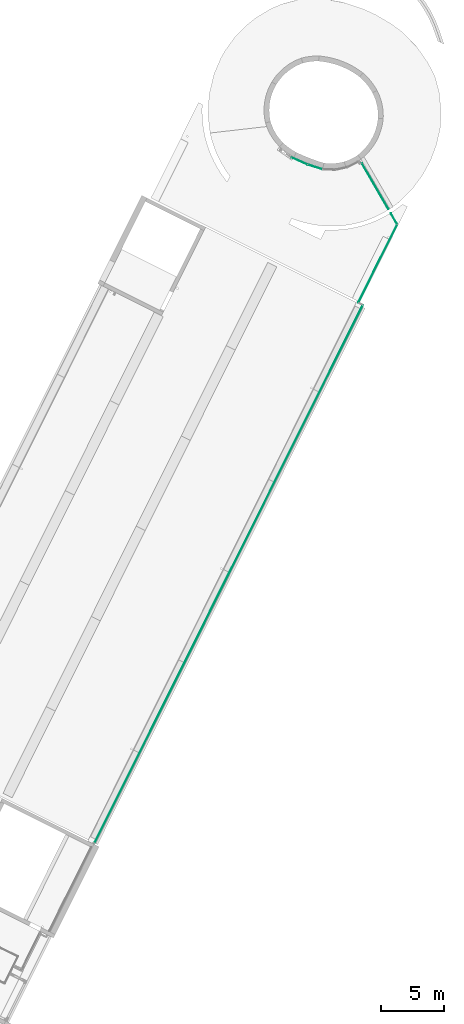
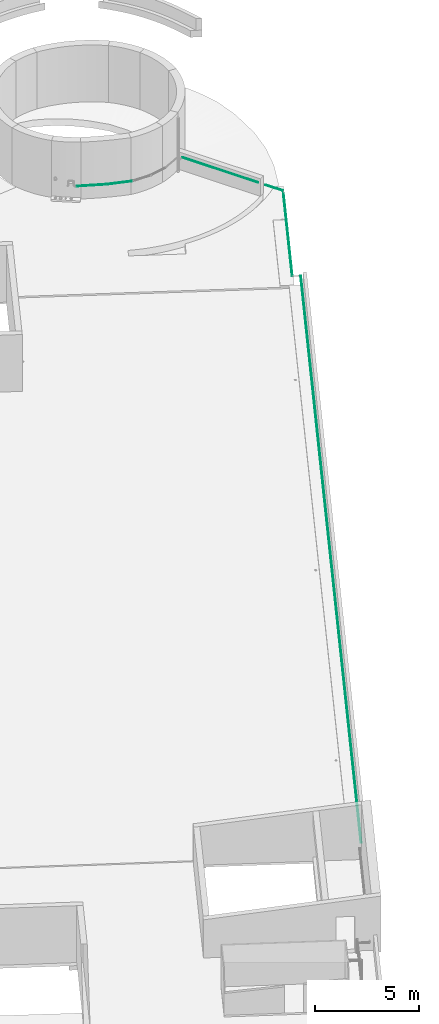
# One storey, part 14 of 34: 6 flow segments.
"""IFC2X3 building model written with IfcOpenShell, lengths in metres."""

import ifcopenshell
import ifcopenshell.guid

model = None  # the IFC model being written
_history = None  # IfcOwnerHistory: only IFC2X3 demands one
_inside = {}  # id of a spatial element -> (the spatial element, [elements in it])
_under = {}  # id of a project, library or spatial element -> (it, [spatial elements below it])
_declared = {}  # id of a project -> (the project, [libraries it declares])
_typed = {}  # id of a type object -> (the type object, [elements of that type])
_made_of = {}  # id of a material, layer set ... -> (it, [elements and type objects made of it])


def new_model(schema):
    """Start an empty IFC model of exactly this schema.

    Asked for "IFC4X3", IfcOpenShell would pick the latest addendum, in which some entities
    have other attributes; the version numbers below select the first issue.
    IFC2X3 requires an IfcOwnerHistory on every rooted entity: one is made here for all.
    """
    global model, _history
    if schema == "IFC4X3":
        model = ifcopenshell.file(schema_version=(4, 3, 0, 0))
    else:
        model = ifcopenshell.file(schema=schema)
    _inside.clear()
    _under.clear()
    _declared.clear()
    _typed.clear()
    _made_of.clear()
    _history = None
    if model.schema == "IFC2X3":
        org = make("IfcOrganization", Name="unknown")
        user = make(
            "IfcPersonAndOrganization",
            ThePerson=make("IfcPerson", FamilyName="unknown"),
            TheOrganization=org,
        )
        app = make(
            "IfcApplication",
            ApplicationDeveloper=org,
            Version="unknown",
            ApplicationFullName="unknown",
            ApplicationIdentifier="unknown",
        )
        _history = make(
            "IfcOwnerHistory",
            OwningUser=user,
            OwningApplication=app,
            ChangeAction="ADDED",
            CreationDate=0,
        )
    return model


def make(cls, **values):
    """One entity of the class cls with the attributes given. An attribute that is None is left unset."""
    return model.create_entity(
        cls, **{name: value for name, value in values.items() if value is not None}
    )


def entity(cls, *values):
    """Any entity or typed value of the class cls, its attributes in the order of the schema. None: left unset."""
    e = model.create_entity(cls)
    for i, value in enumerate(values):
        if value is not None:
            e[i] = value
    return e


def rooted(cls, **values):
    """An entity with a GlobalId (a new one), such as an element, a storey or a relation."""
    return make(cls, GlobalId=ifcopenshell.guid.new(), OwnerHistory=_history, **values)


def si_unit(unit_type, name, prefix=None):
    """IfcSIUnit, for example si_unit("LENGTHUNIT", "METRE", prefix="MILLI")."""
    return make("IfcSIUnit", UnitType=unit_type, Prefix=prefix, Name=name)


def converted_unit(unit_type, name, factor, base, dimensions=None, offset=None):
    """IfcConversionBasedUnit, such as the inch: factor (a typed value) times the base unit."""
    return make(
        "IfcConversionBasedUnit"
        if offset is None
        else "IfcConversionBasedUnitWithOffset",
        ConversionOffset=offset,
        Dimensions=None
        if dimensions is None
        else entity("IfcDimensionalExponents", *dimensions),
        UnitType=unit_type,
        Name=name,
        ConversionFactor=make(
            "IfcMeasureWithUnit", ValueComponent=factor, UnitComponent=base
        ),
    )


def derived_unit(unit_type, elements):
    """IfcDerivedUnit: a product of units, each with its exponent."""
    return make(
        "IfcDerivedUnit",
        Elements=[
            make("IfcDerivedUnitElement", Unit=unit, Exponent=power)
            for unit, power in elements
        ],
        UnitType=unit_type,
    )


def assignment(units):
    """IfcUnitAssignment: the units of a project."""
    return None if units is None else make("IfcUnitAssignment", Units=units)


def point(xyz):
    """IfcCartesianPoint."""
    return None if xyz is None else make("IfcCartesianPoint", Coordinates=xyz)


def direction(xyz):
    """IfcDirection."""
    return None if xyz is None else make("IfcDirection", DirectionRatios=xyz)


def frame(location, z_axis=None, x_axis=None):
    """IfcAxis2Placement3D, a coordinate frame: its origin and axes. An axis left out is left unset."""
    return make(
        "IfcAxis2Placement3D",
        Location=point(location),
        Axis=direction(z_axis),
        RefDirection=direction(x_axis),
    )


def frame_2d(location, x_axis=None):
    """IfcAxis2Placement2D, a coordinate frame in the plane: its origin and x axis."""
    return make(
        "IfcAxis2Placement2D", Location=point(location), RefDirection=direction(x_axis)
    )


def origin():
    """The frame at (0, 0, 0) with its axes left unset."""
    return frame((0.0, 0.0, 0.0))


def origin_2d_with_axis():
    """The frame at (0, 0) in the plane with the x axis (1, 0) written out."""
    return frame_2d((0.0, 0.0), x_axis=(1.0, 0.0))


def place(relative_to, where):
    """IfcLocalPlacement: puts the frame where relative to a parent placement (None: the world)."""
    return make(
        "IfcLocalPlacement", PlacementRelTo=relative_to, RelativePlacement=where
    )


def context(
    kind, dimensions, precision=None, world=None, true_north=None, identifier=None
):
    """IfcGeometricRepresentationContext, for example the 3D "Model" context."""
    return make(
        "IfcGeometricRepresentationContext",
        ContextIdentifier=identifier,
        ContextType=kind,
        CoordinateSpaceDimension=dimensions,
        Precision=precision,
        WorldCoordinateSystem=world,
        TrueNorth=true_north,
    )


def subcontext(parent, identifier, kind, view, scale=None):
    """IfcGeometricRepresentationSubContext, for example "Body" below "Model"."""
    return make(
        "IfcGeometricRepresentationSubContext",
        ContextIdentifier=identifier,
        ContextType=kind,
        ParentContext=parent,
        TargetScale=scale,
        TargetView=view,
    )


def project(units=None, contexts=None):
    """IfcProject with its units and contexts."""
    return rooted(
        "IfcProject",
        Name="project",
        RepresentationContexts=contexts,
        UnitsInContext=assignment(units),
    )


def spatial(cls, under=None, at=None, **own):
    """A site, building, storey or space (cls), placed at a placement, below another one or the project."""
    s = rooted(cls, ObjectPlacement=at, **own)
    if under is not None:
        _under.setdefault(under.id(), (under, []))[1].append(s)
    return s


def profile(cls, at=None, kind="AREA", **sizes):
    """A parametric profile (cls). Its sizes go by their IFC names, for example OverallWidth=200.0."""
    return make(cls, ProfileType=kind, Position=at, **sizes)


def circle(**sizes):
    """IfcCircleProfileDef."""
    return profile("IfcCircleProfileDef", **sizes)


def extrude(swept, where, along, depth):
    """IfcExtrudedAreaSolid: the profile swept, set in the frame where, extruded along a direction by depth."""
    return make(
        "IfcExtrudedAreaSolid",
        SweptArea=swept,
        Position=where,
        ExtrudedDirection=direction(along),
        Depth=depth,
    )


def shape(context_of_items, identifier, shape_type, items):
    """IfcShapeRepresentation: the items that make up one representation, for example the "Body"."""
    return make(
        "IfcShapeRepresentation",
        ContextOfItems=context_of_items,
        RepresentationIdentifier=identifier,
        RepresentationType=shape_type,
        Items=items,
    )


def made_of(thing, what):
    """Note that an element or type object is made of a material, layer set ...; save() writes the relation."""
    if what is not None:
        _made_of.setdefault(what.id(), (what, []))[1].append(thing)
    return thing


def type_object(cls, material=None, **own):
    """A type object (cls), such as IfcWallType, which elements share."""
    return made_of(rooted(cls, **own), material)


def element(
    cls,
    number,
    at=None,
    inside=None,
    cuts=None,
    type_object=None,
    material=None,
    context=None,
    identifier="Body",
    shape_type=None,
    held_by="IfcProductDefinitionShape",
    body=None,
    shapes=None,
    **own,
):
    """One element of the class cls, such as IfcWall. Its Tag is "e" and its number.

    at: its placement. inside: the storey or other place that contains it. cuts: it is an
    opening in that element (IfcRelVoidsElement). A single representation is given by context,
    identifier, shape_type and body (its items); several are given by shapes. held_by: the class
    of the entity that holds the representations. save() writes the other relations.
    """
    e = rooted(cls, Tag="e%d" % number, ObjectPlacement=at, **own)
    if body is not None:
        shapes = [shape(context, identifier, shape_type, body)]
    if shapes is not None:
        e.Representation = make(held_by, Representations=shapes)
    if inside is not None:
        _inside.setdefault(inside.id(), (inside, []))[1].append(e)
    if cuts is not None:
        rooted(
            "IfcRelVoidsElement", RelatingBuildingElement=cuts, RelatedOpeningElement=e
        )
    if type_object is not None:
        _typed.setdefault(type_object.id(), (type_object, []))[1].append(e)
    return made_of(e, material)


def aggregate(whole, parts):
    """IfcRelAggregates: a whole, such as a stair, and the parts it consists of."""
    return rooted("IfcRelAggregates", RelatingObject=whole, RelatedObjects=parts)


def save(model, path):
    """Write the relations noted so far, then the file.

    IfcRelAggregates (storeys below a building ...), IfcRelContainedInSpatialStructure (elements
    in a storey), IfcRelDefinesByType, IfcRelAssociatesMaterial and IfcRelDeclares: one each for
    every whole, place, type object, material and project.
    """
    for whole, parts in _under.values():
        aggregate(whole, parts)
    for where, things in _inside.values():
        rooted(
            "IfcRelContainedInSpatialStructure",
            RelatedElements=things,
            RelatingStructure=where,
        )
    for kind, things in _typed.values():
        rooted("IfcRelDefinesByType", RelatedObjects=things, RelatingType=kind)
    for what, things in _made_of.values():
        rooted("IfcRelAssociatesMaterial", RelatedObjects=things, RelatingMaterial=what)
    for by, libraries in _declared.values():
        rooted("IfcRelDeclares", RelatingContext=by, RelatedDefinitions=libraries)
    model.write(path)


model = new_model("IFC2X3")

# Units and contexts
model_context = context("Model", 3, precision=1e-05, world=origin(), true_north=direction((0.894925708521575, 0.446215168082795)))
context_of_model = context(None, 3, precision=1e-05, world=origin(), true_north=direction((0.894925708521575, 0.446215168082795)))
body_context = subcontext(model_context, "Body", "Model", "MODEL_VIEW")
ifc_project = project(units=[si_unit("LENGTHUNIT", "METRE"), si_unit("AREAUNIT", "SQUARE_METRE"), si_unit("VOLUMEUNIT", "CUBIC_METRE"), converted_unit("PLANEANGLEUNIT", "DEGREE", entity("IfcRatioMeasure", 0.0174532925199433), si_unit("PLANEANGLEUNIT", "RADIAN"), dimensions=[0, 0, 0, 0, 0, 0, 0]), si_unit("MASSUNIT", "GRAM", prefix="KILO"), si_unit("TIMEUNIT", "SECOND"), si_unit("FREQUENCYUNIT", "HERTZ"), si_unit("THERMODYNAMICTEMPERATUREUNIT", "DEGREE_CELSIUS"), derived_unit("THERMALTRANSMITTANCEUNIT", [(si_unit("MASSUNIT", "GRAM", prefix="KILO"), 1), (si_unit("THERMODYNAMICTEMPERATUREUNIT", "KELVIN"), -1), (si_unit("TIMEUNIT", "SECOND"), -3)]), derived_unit("VOLUMETRICFLOWRATEUNIT", [(si_unit("LENGTHUNIT", "METRE"), 3), (si_unit("TIMEUNIT", "SECOND"), -1)]), si_unit("ELECTRICCURRENTUNIT", "AMPERE"), si_unit("ELECTRICVOLTAGEUNIT", "VOLT"), si_unit("POWERUNIT", "WATT"), si_unit("FORCEUNIT", "NEWTON", prefix="KILO"), si_unit("ILLUMINANCEUNIT", "LUX"), si_unit("LUMINOUSFLUXUNIT", "LUMEN"), si_unit("LUMINOUSINTENSITYUNIT", "CANDELA"), si_unit("PRESSUREUNIT", "PASCAL")], contexts=[model_context, context_of_model])

# Site, building, storey
site_placement = place(None, frame((218.228324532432, 584.720189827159, 0.0), z_axis=(0.0, 0.0, 1.0), x_axis=(0.446215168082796, 0.894925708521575, 0.0)))
site = spatial("IfcSite", under=ifc_project, at=site_placement, Name="Default", CompositionType="ELEMENT")
building_placement = place(site_placement, origin())
building = spatial("IfcBuilding", under=site, at=building_placement, CompositionType="ELEMENT")
storey_placement = place(building_placement, frame((0.0, 0.0, 8.61)))
storey = spatial("IfcBuildingStorey", under=building, at=storey_placement, Name="2 - Piano Secondo", CompositionType="ELEMENT", Elevation=8.61)

# Flow segments
pipe_segment_type = type_object("IfcPipeSegmentType", Name="Tubazione:Antincendio-Tubazione", PredefinedType="NOTDEFINED")
flow_segment_1_placement = place(storey_placement, frame((66.8673068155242, -5.46545385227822, 0.827322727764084)))
element("IfcFlowSegment", 1, at=flow_segment_1_placement, inside=storey, type_object=pipe_segment_type, Name="Tubazione:Antincendio-Tubazione", ObjectType="Tubazione:Antincendio-Tubazione", context=body_context, shape_type="SweptSolid", body=[
    extrude(circle(Radius=0.021082, at=origin_2d_with_axis()), frame((0.212642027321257, 0.00489322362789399, 0.0226772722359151), z_axis=(-0.156434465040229, 0.987688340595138, 0.0), x_axis=(0.987688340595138, 0.156434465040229, 0.0)), (0.0, 0.0, 1.0), 1.21599999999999),
])
flow_segment_2_placement = place(storey_placement, frame((66.795714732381, -4.19853801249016, 0.827322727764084)))
element("IfcFlowSegment", 2, at=flow_segment_2_placement, inside=storey, type_object=pipe_segment_type, Name="Tubazione:Antincendio-Tubazione", ObjectType="Tubazione:Antincendio-Tubazione", context=body_context, shape_type="SweptSolid", body=[
    extrude(circle(Radius=0.021082, at=origin_2d_with_axis()), frame((0.0875127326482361, 0.00257767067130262, 0.0226772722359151), z_axis=(-0.0465989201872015, 0.998913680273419, 0.0), x_axis=(0.998913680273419, 0.0465989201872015, 0.0)), (0.0, 0.0, 1.0), 1.39184259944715),
])
flow_segment_3_placement = place(storey_placement, frame((11.2262149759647, -13.1337562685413, 0.677322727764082)))
element("IfcFlowSegment", 3, at=flow_segment_3_placement, inside=storey, type_object=pipe_segment_type, Name="Tubazione:Antincendio-Tubazione", ObjectType="Tubazione:Antincendio-Tubazione", context=body_context, shape_type="SweptSolid", body=[
    extrude(circle(Radius=0.021082, at=origin_2d_with_axis()), frame((0.0, 0.0226772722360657, 0.0226772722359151), z_axis=(1.0, 0.0, 0.0), x_axis=(0.0, -1.0, 0.0)), (0.0, 0.0, 1.0), 47.6077220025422),
])
flow_segment_4_placement = place(storey_placement, frame((58.8979369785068, -12.7237562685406, 0.677322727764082)))
element("IfcFlowSegment", 4, at=flow_segment_4_placement, inside=storey, type_object=pipe_segment_type, Name="Tubazione:Antincendio-Tubazione", ObjectType="Tubazione:Antincendio-Tubazione", context=body_context, shape_type="SweptSolid", body=[
    extrude(circle(Radius=0.021082, at=origin_2d_with_axis()), frame((0.0, 0.02267727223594, 0.0226772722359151), z_axis=(1.0, 0.0, 0.0), x_axis=(0.0, -1.0, 0.0)), (0.0, 0.0, 1.0), 6.88683735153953),
])
flow_segment_5_placement = place(storey_placement, frame((65.8152099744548, -12.687578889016, 0.827322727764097)))
element("IfcFlowSegment", 5, at=flow_segment_5_placement, inside=storey, type_object=pipe_segment_type, Name="Tubazione:Antincendio-Tubazione", ObjectType="Tubazione:Antincendio-Tubazione", context=body_context, shape_type="SweptSolid", body=[
    extrude(circle(Radius=0.021082, at=origin_2d_with_axis()), frame((0.0191907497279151, 0.0132077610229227, 0.0226772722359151), z_axis=(0.550824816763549, 0.83462088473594, 0.0), x_axis=(0.83462088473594, -0.550824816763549, 0.0)), (0.0, 0.0, 1.0), 0.968000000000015),
])
flow_segment_6_placement = place(storey_placement, frame((66.5734698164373, -11.5386482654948, 0.827322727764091)))
element("IfcFlowSegment", 6, at=flow_segment_6_placement, inside=storey, type_object=pipe_segment_type, Name="Tubazione:Antincendio-Tubazione", ObjectType="Tubazione:Antincendio-Tubazione", context=body_context, shape_type="SweptSolid", body=[
    extrude(circle(Radius=0.021082, at=origin_2d_with_axis()), frame((0.0191907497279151, 0.0132077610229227, 0.0226772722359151), z_axis=(0.550824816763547, 0.834620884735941, 0.0), x_axis=(0.834620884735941, -0.550824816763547, 0.0)), (0.0, 0.0, 1.0), 4.20000000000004),
])

save(model, "model.ifc")
